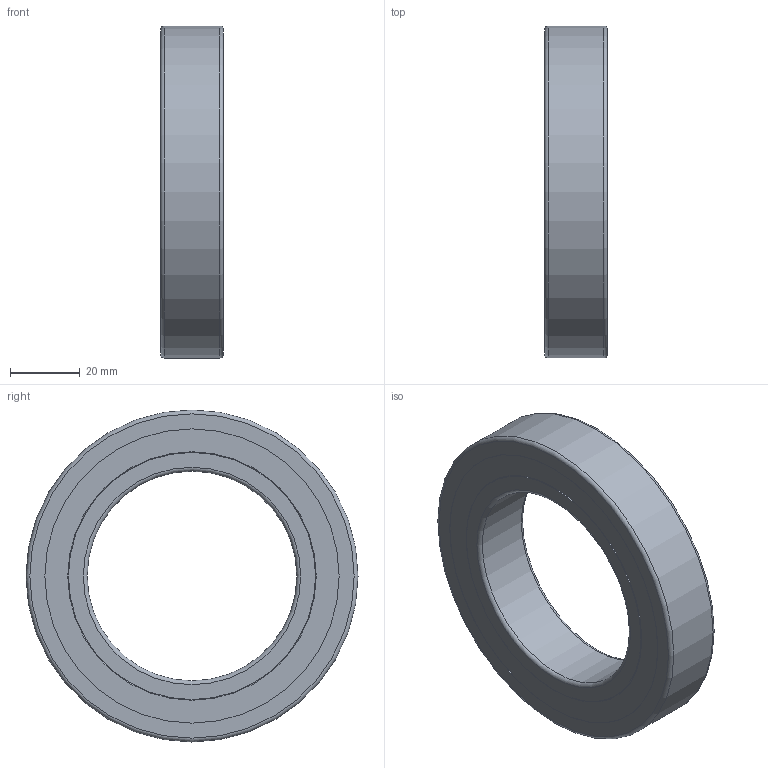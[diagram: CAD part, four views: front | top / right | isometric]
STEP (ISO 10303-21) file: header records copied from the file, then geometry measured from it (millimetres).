
FILE_DESCRIPTION(/* description */ (''),/* implementation_level */ '2;1');
FILE_NAME(/* name */ 'KH_6012_TA.step',/* time_stamp */ '2013-03-07T07:04:30+01:00',/* author */ ('Marian'),/* organization */ ('GMN'),/* preprocessor_version */ 'ST-DEVELOPER v11',/* originating_system */ 'SIEMENS UGS NX 6.0',/* authorisation */ '');
FILE_SCHEMA (('CONFIG_CONTROL_DESIGN'));
Length unit declared in the file: millimetre
Products named in the file (1): KH_6012_TA
Bounding box: 18 x 95 x 95 mm (x, y, z)
Volume: 61343.5 mm3; surface area: 41780.4 mm2
Topology: 29 solids, 29 shells, 80 faces, 200 edges, 130 vertices
Faces by surface type: cylinder 37, sphere 24, plane 12, torus 6, cone 1
Full cylindrical faces by diameter (mm): 8.138 x24, 60 x1, 70.7 x1, 71.1 x1, 71.9 x1, 72.3 x1, 76.798 x1, 81.696 x1, 82.096 x1, 84.2 x2, 87.4 x2, 95 x1
Entity records: 4438 total; most frequent: CARTESIAN_POINT 3001, DIRECTION 226, FACE_BOUND 184, EDGE_LOOP 160, ORIENTED_EDGE 160, AXIS2_PLACEMENT_3D 113, VERTEX_POINT 104, ADVANCED_FACE 80
